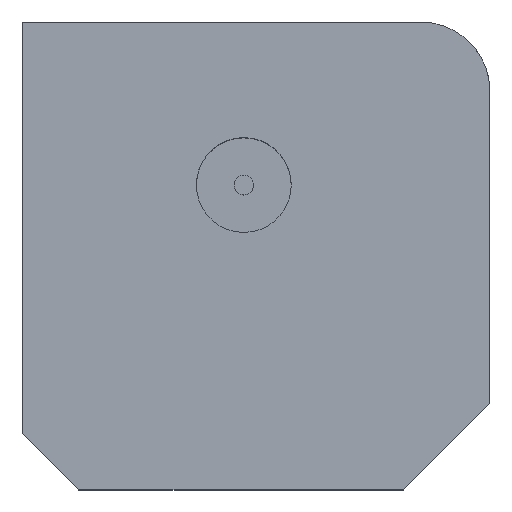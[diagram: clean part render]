
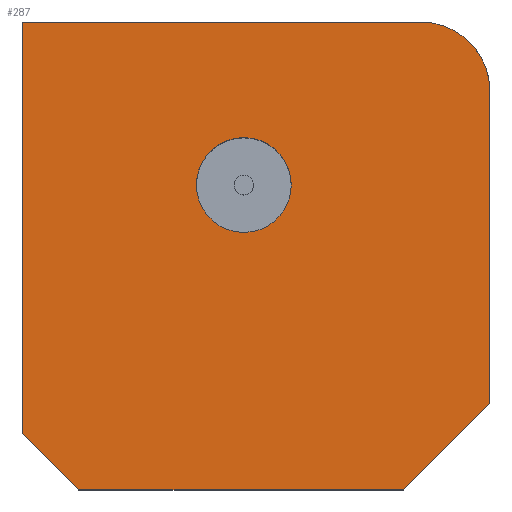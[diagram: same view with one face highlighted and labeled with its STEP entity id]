
A CAD part, top view. The second image highlights one B-rep face of the part: STEP entity #287.
In plain terms, the highlighted planar face has unit normal (0, 0, 1).
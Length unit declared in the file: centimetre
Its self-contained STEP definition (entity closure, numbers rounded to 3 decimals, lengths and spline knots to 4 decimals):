
#14 = DIRECTION ( 'NONE',  ( 0., -1., 0. ) ) ;
#45 = VERTEX_POINT ( 'NONE', #639 ) ;
#59 = AXIS2_PLACEMENT_3D ( 'NONE', #363, #419, #495 ) ;
#71 = CARTESIAN_POINT ( 'NONE',  ( 0., 1000., 1000. ) ) ;
#101 = CARTESIAN_POINT ( 'NONE',  ( 473.9824, 651.5713, 1000. ) ) ;
#102 = VERTEX_POINT ( 'NONE', #816 ) ;
#117 = ORIENTED_EDGE ( 'NONE', *, *, #225, .T. ) ;
#120 = EDGE_CURVE ( 'NONE', #848, #601, #820, .T. ) ;
#123 = LINE ( 'NONE', #889, #250 ) ;
#128 = CARTESIAN_POINT ( 'NONE',  ( 60.5846, 60.5846, 1000. ) ) ;
#142 = CARTESIAN_POINT ( 'NONE',  ( 0., 0., 1000. ) ) ;
#154 = VECTOR ( 'NONE', #191, 100. ) ;
#162 = ORIENTED_EDGE ( 'NONE', *, *, #467, .T. ) ;
#178 = ORIENTED_EDGE ( 'NONE', *, *, #876, .T. ) ;
#191 = DIRECTION ( 'NONE',  ( 1., 0., 0. ) ) ;
#200 = LINE ( 'NONE', #128, #796 ) ;
#208 = DIRECTION ( 'NONE',  ( 0.707, -0.707, 0. ) ) ;
#225 = EDGE_CURVE ( 'NONE', #614, #518, #480, .T. ) ;
#227 = VERTEX_POINT ( 'NONE', #556 ) ;
#238 = ORIENTED_EDGE ( 'NONE', *, *, #483, .F. ) ;
#246 = CARTESIAN_POINT ( 'NONE',  ( 0., 121.1692, 1000. ) ) ;
#250 = VECTOR ( 'NONE', #679, 100. ) ;
#253 = EDGE_CURVE ( 'NONE', #732, #102, #200, .T. ) ;
#261 = ORIENTED_EDGE ( 'NONE', *, *, #253, .T. ) ;
#263 = PLANE ( 'NONE',  #511 ) ;
#270 = CIRCLE ( 'NONE', #761, 101.4049 ) ;
#274 = FACE_BOUND ( 'NONE', #337, .T. ) ;
#280 = CARTESIAN_POINT ( 'NONE',  ( 407.6634, -407.6634, 1000. ) ) ;
#287 = ADVANCED_FACE ( 'NONE', ( #274, #688 ), #263, .T. ) ;
#295 = CARTESIAN_POINT ( 'NONE',  ( 815.3269, 0., 1000. ) ) ;
#334 = CARTESIAN_POINT ( 'NONE',  ( 473.9824, 651.5713, 1000. ) ) ;
#337 = EDGE_LOOP ( 'NONE', ( #238, #799 ) ) ;
#350 = CARTESIAN_POINT ( 'NONE',  ( 1000., 184.6731, 1000. ) ) ;
#363 = CARTESIAN_POINT ( 'NONE',  ( 852.2564, 852.2564, 1000. ) ) ;
#388 = CARTESIAN_POINT ( 'NONE',  ( 0., 0., 1000. ) ) ;
#394 = ORIENTED_EDGE ( 'NONE', *, *, #120, .T. ) ;
#398 = DIRECTION ( 'NONE',  ( 0., 0., 1. ) ) ;
#419 = DIRECTION ( 'NONE',  ( 0., 0., 1. ) ) ;
#426 = VECTOR ( 'NONE', #551, 100. ) ;
#448 = VECTOR ( 'NONE', #897, 100. ) ;
#467 = EDGE_CURVE ( 'NONE', #518, #227, #123, .T. ) ;
#480 = LINE ( 'NONE', #280, #426 ) ;
#483 = EDGE_CURVE ( 'NONE', #717, #45, #270, .T. ) ;
#492 = CARTESIAN_POINT ( 'NONE',  ( 0., 1000., 1000. ) ) ;
#495 = DIRECTION ( 'NONE',  ( 1., 0., 0. ) ) ;
#511 = AXIS2_PLACEMENT_3D ( 'NONE', #142, #398, #744 ) ;
#513 = CIRCLE ( 'NONE', #687, 101.4049 ) ;
#518 = VERTEX_POINT ( 'NONE', #350 ) ;
#521 = DIRECTION ( 'NONE',  ( 1., 0., 0. ) ) ;
#536 = EDGE_CURVE ( 'NONE', #601, #732, #642, .T. ) ;
#540 = ORIENTED_EDGE ( 'NONE', *, *, #553, .T. ) ;
#546 = VECTOR ( 'NONE', #14, 100. ) ;
#551 = DIRECTION ( 'NONE',  ( 0.707, 0.707, 0. ) ) ;
#553 = EDGE_CURVE ( 'NONE', #227, #848, #563, .T. ) ;
#556 = CARTESIAN_POINT ( 'NONE',  ( 1000., 852.2564, 1000. ) ) ;
#563 = CIRCLE ( 'NONE', #59, 147.7436 ) ;
#601 = VERTEX_POINT ( 'NONE', #71 ) ;
#603 = DIRECTION ( 'NONE',  ( 1., 0., 0. ) ) ;
#612 = DIRECTION ( 'NONE',  ( 0., 0., 1. ) ) ;
#614 = VERTEX_POINT ( 'NONE', #295 ) ;
#639 = CARTESIAN_POINT ( 'NONE',  ( 372.5776, 651.5713, 1000. ) ) ;
#642 = LINE ( 'NONE', #492, #546 ) ;
#657 = CARTESIAN_POINT ( 'NONE',  ( 575.3873, 651.5713, 1000. ) ) ;
#679 = DIRECTION ( 'NONE',  ( 0., 1., 0. ) ) ;
#687 = AXIS2_PLACEMENT_3D ( 'NONE', #101, #783, #521 ) ;
#688 = FACE_OUTER_BOUND ( 'NONE', #842, .T. ) ;
#717 = VERTEX_POINT ( 'NONE', #657 ) ;
#732 = VERTEX_POINT ( 'NONE', #246 ) ;
#743 = LINE ( 'NONE', #388, #154 ) ;
#744 = DIRECTION ( 'NONE',  ( 1., 0., 0. ) ) ;
#761 = AXIS2_PLACEMENT_3D ( 'NONE', #334, #612, #603 ) ;
#783 = DIRECTION ( 'NONE',  ( 0., 0., 1. ) ) ;
#796 = VECTOR ( 'NONE', #208, 100. ) ;
#799 = ORIENTED_EDGE ( 'NONE', *, *, #840, .F. ) ;
#816 = CARTESIAN_POINT ( 'NONE',  ( 121.1692, 0., 1000. ) ) ;
#820 = LINE ( 'NONE', #830, #448 ) ;
#830 = CARTESIAN_POINT ( 'NONE',  ( 0., 1000., 1000. ) ) ;
#839 = ORIENTED_EDGE ( 'NONE', *, *, #536, .T. ) ;
#840 = EDGE_CURVE ( 'NONE', #45, #717, #513, .T. ) ;
#842 = EDGE_LOOP ( 'NONE', ( #178, #117, #162, #540, #394, #839, #261 ) ) ;
#848 = VERTEX_POINT ( 'NONE', #866 ) ;
#866 = CARTESIAN_POINT ( 'NONE',  ( 852.2564, 1000., 1000. ) ) ;
#876 = EDGE_CURVE ( 'NONE', #102, #614, #743, .T. ) ;
#889 = CARTESIAN_POINT ( 'NONE',  ( 1000., 1000., 1000. ) ) ;
#897 = DIRECTION ( 'NONE',  ( -1., 0., 0. ) ) ;
